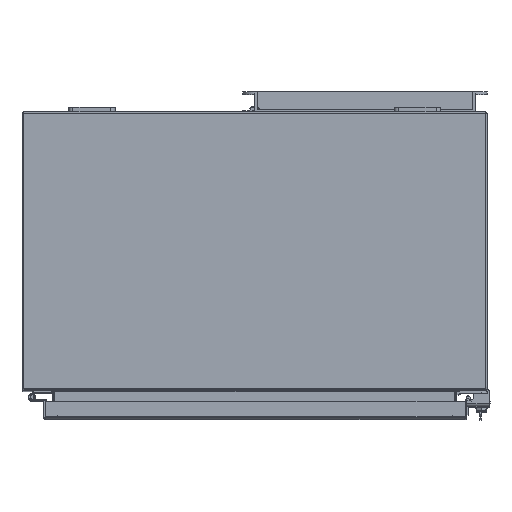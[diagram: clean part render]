
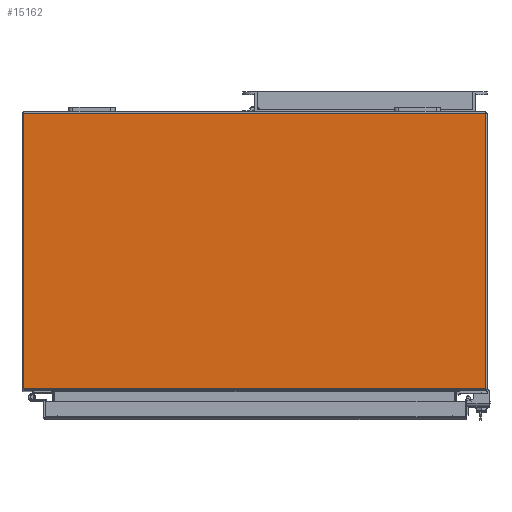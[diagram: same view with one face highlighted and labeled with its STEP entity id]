
A CAD part, top view. The second image highlights one B-rep face of the part: STEP entity #15162.
In plain terms, the highlighted planar face has unit normal (0, 0, 1).
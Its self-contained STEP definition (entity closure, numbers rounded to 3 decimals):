
#1743=LINE('',#27934,#3122);
#1747=LINE('',#27943,#3126);
#1750=LINE('',#27950,#3129);
#1754=LINE('',#27957,#3133);
#3122=VECTOR('',#20284,1000.);
#3126=VECTOR('',#20292,1000.);
#3129=VECTOR('',#20297,1000.);
#3133=VECTOR('',#20303,1000.);
#7992=ORIENTED_EDGE('',*,*,#10150,.F.);
#7993=ORIENTED_EDGE('',*,*,#10149,.F.);
#7994=ORIENTED_EDGE('',*,*,#10142,.F.);
#7995=ORIENTED_EDGE('',*,*,#10145,.T.);
#7996=ORIENTED_EDGE('',*,*,#10153,.F.);
#7997=ORIENTED_EDGE('',*,*,#10138,.T.);
#10138=EDGE_CURVE('',#11526,#11532,#1743,.T.);
#10142=EDGE_CURVE('',#11535,#11536,#1747,.T.);
#10145=EDGE_CURVE('',#11535,#11538,#1750,.T.);
#10149=EDGE_CURVE('',#11536,#11540,#1754,.T.);
#10150=EDGE_CURVE('',#11540,#11532,#12008,.T.);
#10153=EDGE_CURVE('',#11526,#11538,#12011,.T.);
#11526=VERTEX_POINT('',#27845);
#11532=VERTEX_POINT('',#27927);
#11535=VERTEX_POINT('',#27942);
#11536=VERTEX_POINT('',#27944);
#11538=VERTEX_POINT('',#27949);
#11540=VERTEX_POINT('',#27955);
#12008=CIRCLE('',#16503,6.35);
#12011=CIRCLE('',#16508,6.35);
#12900=EDGE_LOOP('',(#7992,#7993,#7994,#7995,#7996,#7997));
#13817=FACE_BOUND('',#12900,.T.);
#14359=PLANE('',#16509);
#15162=ADVANCED_FACE('',(#13817),#14359,.T.);
#16503=AXIS2_PLACEMENT_3D('',#27959,#20306,#20307);
#16508=AXIS2_PLACEMENT_3D('',#27964,#20316,#20317);
#16509=AXIS2_PLACEMENT_3D('',#27965,#20318,#20319);
#20284=DIRECTION('',(1.,0.,0.));
#20292=DIRECTION('',(1.,0.,0.));
#20297=DIRECTION('',(0.,-1.,0.));
#20303=DIRECTION('',(0.,-1.,0.));
#20306=DIRECTION('',(0.,0.,-1.));
#20307=DIRECTION('',(-1.,0.,0.));
#20316=DIRECTION('',(0.,0.,-1.));
#20317=DIRECTION('',(1.,0.,0.));
#20318=DIRECTION('',(0.,0.,1.));
#20319=DIRECTION('',(0.,-1.,0.));
#27845=CARTESIAN_POINT('',(-251.42,-148.742,0.));
#27927=CARTESIAN_POINT('',(251.42,-148.742,0.));
#27934=CARTESIAN_POINT('',(-252.171,-148.742,0.));
#27942=CARTESIAN_POINT('',(-252.171,151.486,0.));
#27943=CARTESIAN_POINT('',(-252.171,151.486,0.));
#27944=CARTESIAN_POINT('',(252.171,151.486,0.));
#27949=CARTESIAN_POINT('',(-252.171,-145.746,0.));
#27950=CARTESIAN_POINT('',(-252.171,151.486,0.));
#27955=CARTESIAN_POINT('',(252.171,-145.746,0.));
#27957=CARTESIAN_POINT('',(252.171,151.486,0.));
#27959=CARTESIAN_POINT('',(245.821,-145.746,0.));
#27964=CARTESIAN_POINT('',(-245.821,-145.746,0.));
#27965=CARTESIAN_POINT('',(-252.171,151.486,0.));
